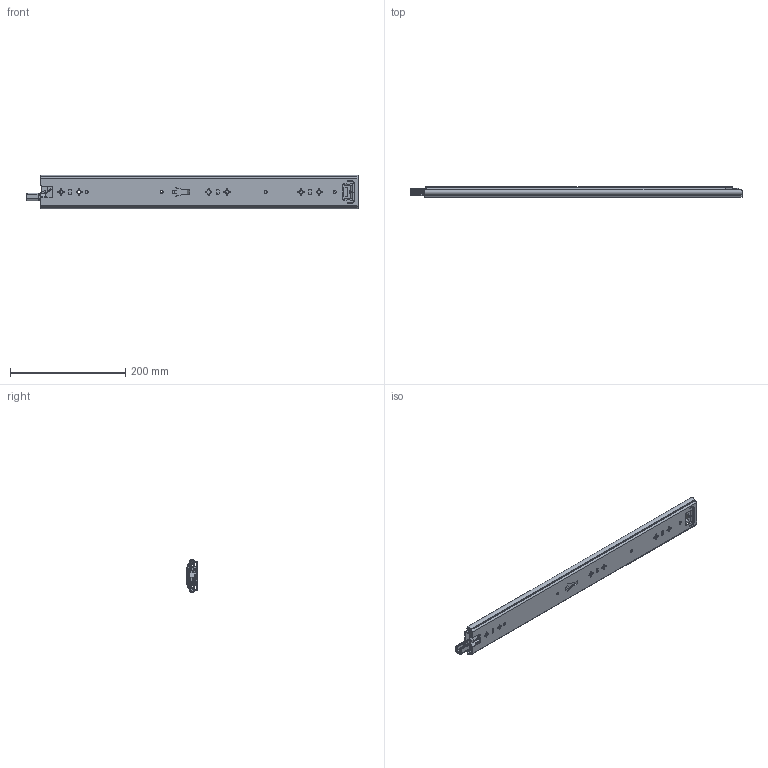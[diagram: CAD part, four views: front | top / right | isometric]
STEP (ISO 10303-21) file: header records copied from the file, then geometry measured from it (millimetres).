
FILE_DESCRIPTION((''),'2;1');
FILE_NAME('KP-57-01ZUZHUANGTU-22_ASM','2022-08-17T',('jishu015'),(''),'PRO/ENGINEER BY PARAMETRIC TECHNOLOGY CORPORATION, 2010280','PRO/ENGINEER BY PARAMETRIC TECHNOLOGY CORPORATION, 2010280','');
FILE_SCHEMA(('CONFIG_CONTROL_DESIGN'));
Products named in the file (22): KP-57-01WEIKE-18_______________; 1057WEIJIAO_______________; WAIKE______________ASM; KP-57-01ZHONGGUI-26__; ZHONGGUIPEIJIAN-11_____________; ZHONGGUISUOKOU-11_____________; KP-57-01ZHONGGUI-26___ASM; 1057XIAOZHUJIA_______________; 1057-5-6GANZHU_______________; 1057XIAOZHUJIA-14GE26___ASM; KP-57-01NEIGUI-22; PJ-57-08_____________; DIAOPIAN-11_____________; 50XINSUOKOU-1_____________; TANHUANG_____________; 1053-3SBANJI122___________; JIAO11___________; KP-57-01NEIGUI-22_ASM; 1053ZHUTIAO-275__; 53-5-6GANZHU___________________; 1053ZHUTIAO-175MM______________ASM; KP-57-01ZUZHUANGTU-22_ASM
Assembly tree (65 placements, depth 3):
  KP-57-01ZUZHUANGTU-22_ASM
    WAIKE______________ASM
      KP-57-01WEIKE-18_______________
      1057WEIJIAO_______________
    KP-57-01ZHONGGUI-26___ASM
      KP-57-01ZHONGGUI-26__
      ZHONGGUIPEIJIAN-11_____________
      ZHONGGUISUOKOU-11_____________
    1057XIAOZHUJIA-14GE26___ASM
      1057XIAOZHUJIA_______________
      1057-5-6GANZHU_______________  x36
    KP-57-01NEIGUI-22_ASM
      KP-57-01NEIGUI-22
      PJ-57-08_____________
      DIAOPIAN-11_____________
      50XINSUOKOU-1_____________
      TANHUANG_____________
      1053-3SBANJI122___________
      JIAO11___________
    1053ZHUTIAO-175MM______________ASM  x2
      1053ZHUTIAO-275__
      53-5-6GANZHU___________________
Bounding box: 575.42 x 19 x 57.67 mm (x, y, z)
Volume: 240842.5 mm3; surface area: 261564.9 mm2
Topology: 71 solids, 71 shells, 1984 faces, 5669 edges, 3552 vertices
Faces by surface type: cylinder 834, plane 829, sphere 119, bspline 94, cone 60, torus 25, extrusion 23
Entity records: 65267 total; most frequent: CARTESIAN_POINT 16539, ORIENTED_EDGE 10306, DIRECTION 10008, EDGE_CURVE 5153, AXIS2_PLACEMENT_3D 3458, VERTEX_POINT 3324, VECTOR 3092, LINE 3069
